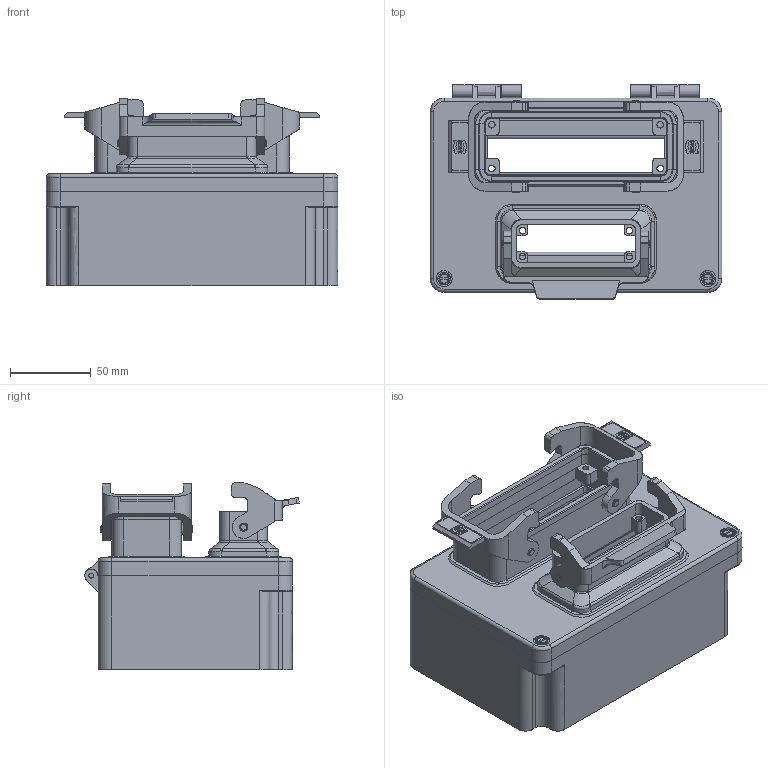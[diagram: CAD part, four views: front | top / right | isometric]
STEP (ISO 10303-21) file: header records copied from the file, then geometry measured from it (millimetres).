
FILE_DESCRIPTION( ( 'STEP AP214' ), '1' );
FILE_NAME( 'C:/Dokumente und Einstellungen/Administrator/Desktop/47 Kabelboxen/G4/7/gr_4_24e_16a-ab.stp', '2006-09-10T20:39:54', ( ' ' ), ( ' ' ), 'XStep 1.0', 'VISICAD', ' ' );
FILE_SCHEMA( ( 'automotive_design' ) );
Length unit declared in the file: millimetre
Products named in the file (1440): 1; 2; 3; 4; 5; 6; 7; 8; 9; 10; 11; 12; 13; 14; 15; 16; 17; 18; 19; 20; 21; 22; 23; 24; 25; 26; 27; 28; 29; 30; 31; 32; 33; 34; 35; 36; 37; 38; 39; 40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
Bounding box: 180 x 132.44 x 115.52 mm (x, y, z)
Surface area: 206602.4 mm2 (no closed solid volume)
Topology: 0 solids, 1440 shells, 1440 faces, 7393 edges, 7385 vertices
Faces by surface type: plane 741, bspline 338, revolution 258, cylinder 103
Full cylindrical faces by diameter (mm): 0.76 x2, 0.84 x2, 5.1 x4
Entity records: 150370 total; most frequent: CARTESIAN_POINT 62761, DIRECTION 10858, ORIENTED_EDGE 7385, EDGE_CURVE 7385, VERTEX_POINT 7385, LINE 4492, VECTOR 4492, AXIS2_PLACEMENT_3D 3054
